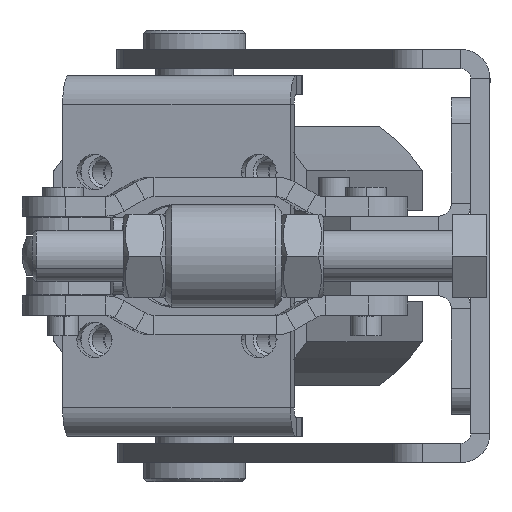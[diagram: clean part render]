
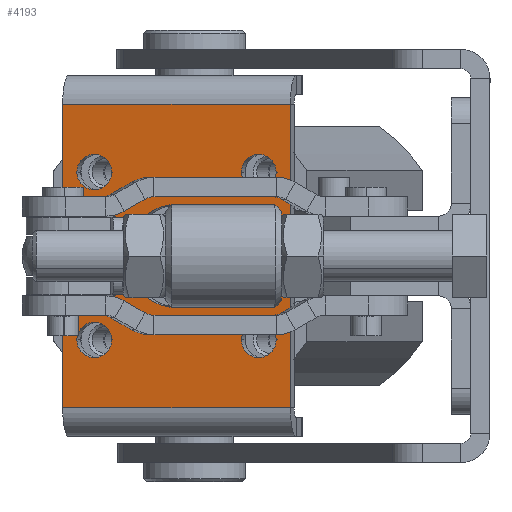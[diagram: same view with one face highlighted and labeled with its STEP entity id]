
A CAD part, left-side view. The second image highlights one B-rep face of the part: STEP entity #4193.
In plain terms, the highlighted planar face has unit normal (-0.98, 0.201, 0) as drawn and (0, -1, 0) by its records, which use the part's own axes.
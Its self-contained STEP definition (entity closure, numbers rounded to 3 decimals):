
#101 = DIRECTION ( 'NONE',  ( 0., 0., 1. ) ) ;
#193 = ORIENTED_EDGE ( 'NONE', *, *, #8384, .T. ) ;
#215 = DIRECTION ( 'NONE',  ( 0., 1., 0. ) ) ;
#266 = CIRCLE ( 'NONE', #6618, 2.75 ) ;
#413 = ORIENTED_EDGE ( 'NONE', *, *, #16101, .T. ) ;
#547 = ORIENTED_EDGE ( 'NONE', *, *, #12871, .T. ) ;
#563 = VERTEX_POINT ( 'NONE', #10728 ) ;
#738 = VERTEX_POINT ( 'NONE', #18065 ) ;
#841 = CARTESIAN_POINT ( 'NONE',  ( -23.5, -3., -3.767 ) ) ;
#1374 = CARTESIAN_POINT ( 'NONE',  ( 13., -3., 15.75 ) ) ;
#1376 = AXIS2_PLACEMENT_3D ( 'NONE', #3414, #13237, #4844 ) ;
#1383 = FACE_BOUND ( 'NONE', #3114, .T. ) ;
#1610 = VERTEX_POINT ( 'NONE', #17819 ) ;
#1655 = LINE ( 'NONE', #13545, #16186 ) ;
#1665 = ORIENTED_EDGE ( 'NONE', *, *, #11763, .T. ) ;
#1832 = FACE_BOUND ( 'NONE', #15534, .T. ) ;
#1972 = CIRCLE ( 'NONE', #10173, 2.75 ) ;
#2091 = VECTOR ( 'NONE', #3694, 1000. ) ;
#2258 = EDGE_CURVE ( 'NONE', #1610, #9041, #3429, .T. ) ;
#2306 = VERTEX_POINT ( 'NONE', #11458 ) ;
#3114 = EDGE_LOOP ( 'NONE', ( #7340, #16080 ) ) ;
#3303 = EDGE_LOOP ( 'NONE', ( #547, #6654 ) ) ;
#3414 = CARTESIAN_POINT ( 'NONE',  ( 0., -3., 0. ) ) ;
#3429 = CIRCLE ( 'NONE', #13526, 2.75 ) ;
#3535 = VERTEX_POINT ( 'NONE', #7500 ) ;
#3694 = DIRECTION ( 'NONE',  ( 1., 0., 0. ) ) ;
#4049 = LINE ( 'NONE', #841, #14819 ) ;
#4051 = DIRECTION ( 'NONE',  ( 0., 1., 0. ) ) ;
#4193 = ADVANCED_FACE ( 'NONE', ( #16356, #5131, #1383, #1832, #5565, #15913 ), #17524, .F. ) ;
#4280 = CARTESIAN_POINT ( 'NONE',  ( 13., -3., 13. ) ) ;
#4465 = DIRECTION ( 'NONE',  ( 0., 1., 0. ) ) ;
#4524 = CARTESIAN_POINT ( 'NONE',  ( 13., -3., -13. ) ) ;
#4573 = EDGE_CURVE ( 'NONE', #16741, #6454, #266, .T. ) ;
#4582 = CARTESIAN_POINT ( 'NONE',  ( -13., -3., -13. ) ) ;
#4844 = DIRECTION ( 'NONE',  ( 0., 0., 1. ) ) ;
#4918 = DIRECTION ( 'NONE',  ( 0., 1., 0. ) ) ;
#5131 = FACE_BOUND ( 'NONE', #9880, .T. ) ;
#5352 = CARTESIAN_POINT ( 'NONE',  ( 13., -3., -10.25 ) ) ;
#5505 = DIRECTION ( 'NONE',  ( -1., 0., 0. ) ) ;
#5565 = FACE_OUTER_BOUND ( 'NONE', #17339, .T. ) ;
#5692 = DIRECTION ( 'NONE',  ( 0., 0., 1. ) ) ;
#5706 = ORIENTED_EDGE ( 'NONE', *, *, #9333, .F. ) ;
#5834 = LINE ( 'NONE', #17731, #2091 ) ;
#5941 = DIRECTION ( 'NONE',  ( 0., 0., 1. ) ) ;
#6004 = DIRECTION ( 'NONE',  ( 0., 0., 1. ) ) ;
#6021 = VERTEX_POINT ( 'NONE', #5352 ) ;
#6110 = CIRCLE ( 'NONE', #8024, 2.75 ) ;
#6321 = EDGE_CURVE ( 'NONE', #7770, #6021, #1972, .T. ) ;
#6454 = VERTEX_POINT ( 'NONE', #17478 ) ;
#6506 = CARTESIAN_POINT ( 'NONE',  ( -13., -3., 13. ) ) ;
#6618 = AXIS2_PLACEMENT_3D ( 'NONE', #4280, #14095, #5692 ) ;
#6654 = ORIENTED_EDGE ( 'NONE', *, *, #2258, .T. ) ;
#6726 = EDGE_CURVE ( 'NONE', #15473, #7488, #11172, .T. ) ;
#6918 = CARTESIAN_POINT ( 'NONE',  ( 32.168, -3., -18. ) ) ;
#7272 = DIRECTION ( 'NONE',  ( 0., 1., 0. ) ) ;
#7340 = ORIENTED_EDGE ( 'NONE', *, *, #9546, .T. ) ;
#7488 = VERTEX_POINT ( 'NONE', #16490 ) ;
#7500 = CARTESIAN_POINT ( 'NONE',  ( 0., -3., 8. ) ) ;
#7770 = VERTEX_POINT ( 'NONE', #17533 ) ;
#7820 = CIRCLE ( 'NONE', #11340, 2.75 ) ;
#7903 = DIRECTION ( 'NONE',  ( 0., 0., 1. ) ) ;
#8024 = AXIS2_PLACEMENT_3D ( 'NONE', #6506, #16345, #7903 ) ;
#8342 = CARTESIAN_POINT ( 'NONE',  ( 23.5, -3., -18. ) ) ;
#8384 = EDGE_CURVE ( 'NONE', #2306, #3535, #9829, .T. ) ;
#8477 = VECTOR ( 'NONE', #5505, 1000. ) ;
#8535 = DIRECTION ( 'NONE',  ( 0., 1., 0. ) ) ;
#8643 = CARTESIAN_POINT ( 'NONE',  ( -13., -3., 13. ) ) ;
#9041 = VERTEX_POINT ( 'NONE', #16003 ) ;
#9333 = EDGE_CURVE ( 'NONE', #17628, #563, #15983, .T. ) ;
#9546 = EDGE_CURVE ( 'NONE', #6021, #7770, #13310, .T. ) ;
#9592 = CARTESIAN_POINT ( 'NONE',  ( -23.5, -3., 18. ) ) ;
#9829 = CIRCLE ( 'NONE', #1376, 8. ) ;
#9880 = EDGE_LOOP ( 'NONE', ( #10275, #1665 ) ) ;
#10066 = DIRECTION ( 'NONE',  ( 0., 0., 1. ) ) ;
#10173 = AXIS2_PLACEMENT_3D ( 'NONE', #16989, #8535, #101 ) ;
#10275 = ORIENTED_EDGE ( 'NONE', *, *, #4573, .T. ) ;
#10327 = ORIENTED_EDGE ( 'NONE', *, *, #10767, .F. ) ;
#10428 = CARTESIAN_POINT ( 'NONE',  ( 39.5, -3., -3.767 ) ) ;
#10580 = VERTEX_POINT ( 'NONE', #9592 ) ;
#10728 = CARTESIAN_POINT ( 'NONE',  ( -23.5, -3., -18. ) ) ;
#10767 = EDGE_CURVE ( 'NONE', #10580, #738, #5834, .T. ) ;
#10771 = DIRECTION ( 'NONE',  ( 0., 0., -1. ) ) ;
#11074 = AXIS2_PLACEMENT_3D ( 'NONE', #15705, #7272, #17126 ) ;
#11172 = CIRCLE ( 'NONE', #17374, 2.75 ) ;
#11340 = AXIS2_PLACEMENT_3D ( 'NONE', #4582, #14419, #6004 ) ;
#11437 = EDGE_CURVE ( 'NONE', #10580, #563, #4049, .T. ) ;
#11458 = CARTESIAN_POINT ( 'NONE',  ( 0., -3., -8. ) ) ;
#11520 = ORIENTED_EDGE ( 'NONE', *, *, #11437, .T. ) ;
#11763 = EDGE_CURVE ( 'NONE', #6454, #16741, #17910, .T. ) ;
#12228 = AXIS2_PLACEMENT_3D ( 'NONE', #12867, #4465, #14293 ) ;
#12438 = CARTESIAN_POINT ( 'NONE',  ( -13., -3., -13. ) ) ;
#12867 = CARTESIAN_POINT ( 'NONE',  ( 13., -3., 13. ) ) ;
#12871 = EDGE_CURVE ( 'NONE', #9041, #1610, #6110, .T. ) ;
#13072 = CARTESIAN_POINT ( 'NONE',  ( -13., -3., -15.75 ) ) ;
#13237 = DIRECTION ( 'NONE',  ( 0., 1., 0. ) ) ;
#13310 = CIRCLE ( 'NONE', #18256, 2.75 ) ;
#13418 = EDGE_CURVE ( 'NONE', #3535, #2306, #17822, .T. ) ;
#13497 = DIRECTION ( 'NONE',  ( 0., 0., -1. ) ) ;
#13526 = AXIS2_PLACEMENT_3D ( 'NONE', #8643, #215, #10066 ) ;
#13545 = CARTESIAN_POINT ( 'NONE',  ( 23.5, -3., -3.767 ) ) ;
#13864 = DIRECTION ( 'NONE',  ( 0., 0., 1. ) ) ;
#14095 = DIRECTION ( 'NONE',  ( 0., 1., 0. ) ) ;
#14293 = DIRECTION ( 'NONE',  ( 0., 0., 1. ) ) ;
#14352 = DIRECTION ( 'NONE',  ( 0., 1., 0. ) ) ;
#14419 = DIRECTION ( 'NONE',  ( 0., 1., 0. ) ) ;
#14618 = EDGE_LOOP ( 'NONE', ( #15915, #193 ) ) ;
#14708 = ORIENTED_EDGE ( 'NONE', *, *, #6726, .T. ) ;
#14736 = DIRECTION ( 'NONE',  ( 0., 0., 1. ) ) ;
#14819 = VECTOR ( 'NONE', #13497, 1000. ) ;
#15473 = VERTEX_POINT ( 'NONE', #13072 ) ;
#15534 = EDGE_LOOP ( 'NONE', ( #413, #14708 ) ) ;
#15705 = CARTESIAN_POINT ( 'NONE',  ( 0., -3., 0. ) ) ;
#15913 = FACE_BOUND ( 'NONE', #14618, .T. ) ;
#15915 = ORIENTED_EDGE ( 'NONE', *, *, #13418, .T. ) ;
#15983 = LINE ( 'NONE', #6918, #8477 ) ;
#16003 = CARTESIAN_POINT ( 'NONE',  ( -13., -3., 15.75 ) ) ;
#16080 = ORIENTED_EDGE ( 'NONE', *, *, #6321, .T. ) ;
#16101 = EDGE_CURVE ( 'NONE', #7488, #15473, #7820, .T. ) ;
#16186 = VECTOR ( 'NONE', #10771, 1000. ) ;
#16345 = DIRECTION ( 'NONE',  ( 0., 1., 0. ) ) ;
#16356 = FACE_BOUND ( 'NONE', #3303, .T. ) ;
#16490 = CARTESIAN_POINT ( 'NONE',  ( -13., -3., -10.25 ) ) ;
#16513 = EDGE_CURVE ( 'NONE', #738, #17628, #1655, .T. ) ;
#16741 = VERTEX_POINT ( 'NONE', #1374 ) ;
#16753 = AXIS2_PLACEMENT_3D ( 'NONE', #10428, #4918, #14736 ) ;
#16989 = CARTESIAN_POINT ( 'NONE',  ( 13., -3., -13. ) ) ;
#17126 = DIRECTION ( 'NONE',  ( 0., 0., 1. ) ) ;
#17339 = EDGE_LOOP ( 'NONE', ( #17880, #10327, #11520, #5706 ) ) ;
#17374 = AXIS2_PLACEMENT_3D ( 'NONE', #12438, #4051, #13864 ) ;
#17478 = CARTESIAN_POINT ( 'NONE',  ( 13., -3., 10.25 ) ) ;
#17524 = PLANE ( 'NONE',  #16753 ) ;
#17533 = CARTESIAN_POINT ( 'NONE',  ( 13., -3., -15.75 ) ) ;
#17628 = VERTEX_POINT ( 'NONE', #8342 ) ;
#17731 = CARTESIAN_POINT ( 'NONE',  ( -32.168, -3., 18. ) ) ;
#17819 = CARTESIAN_POINT ( 'NONE',  ( -13., -3., 10.25 ) ) ;
#17822 = CIRCLE ( 'NONE', #11074, 8. ) ;
#17880 = ORIENTED_EDGE ( 'NONE', *, *, #16513, .F. ) ;
#17910 = CIRCLE ( 'NONE', #12228, 2.75 ) ;
#18065 = CARTESIAN_POINT ( 'NONE',  ( 23.5, -3., 18. ) ) ;
#18256 = AXIS2_PLACEMENT_3D ( 'NONE', #4524, #14352, #5941 ) ;
